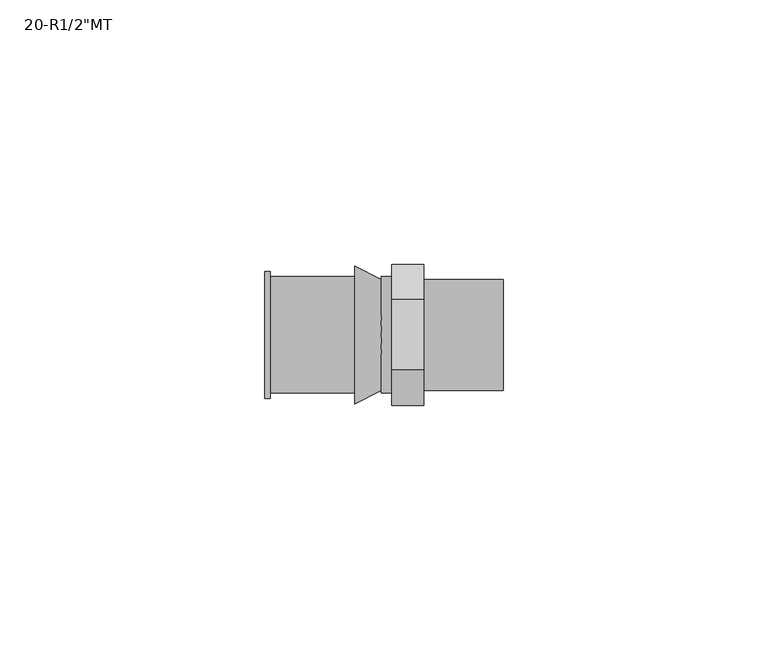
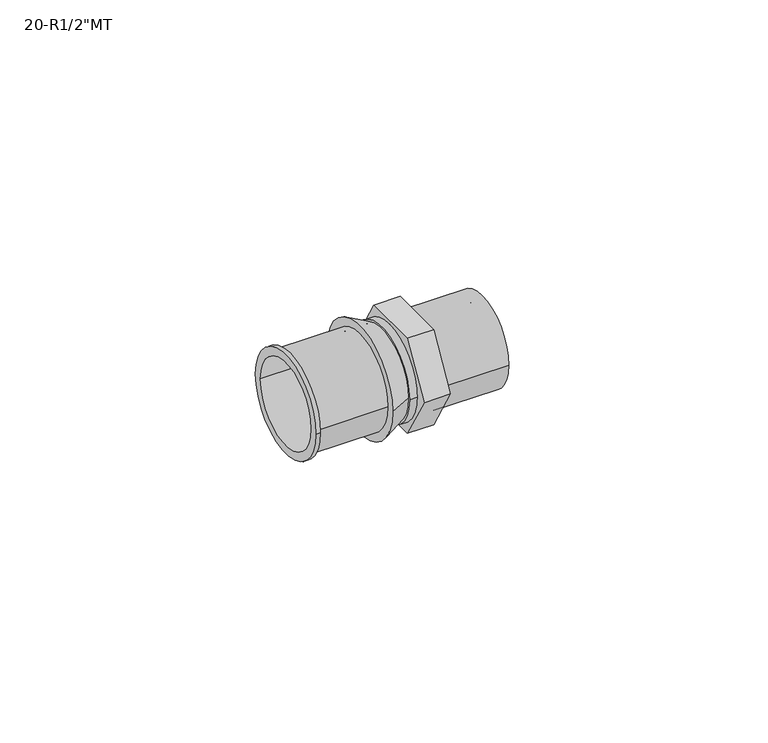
"""IFC4 building model written with IfcOpenShell, lengths in millimetres: pipe fitting geometry."""

from ifc_helpers import new_model, si_unit, point, frame, origin, origin_2d, place, context, project, spatial, polyline, circle_curve, trimmed, segment, composite_curve, outline, extrude, source, transform, mapped, element, save
from ifc_brep_helpers import plane_surface, cylinder_surface, revolved_surface, advanced_brep


def pipe_fitting_318aa478(model_context):
    return source(origin(), model_context, "Body", "SolidModel", [
        advanced_brep(
        [(-3.0, -13.2790562, 0.0), (-3.0, -6.6395281, 11.5), (-3.0, 6.6395281, 11.5), (-3.0, 13.2790562, 0.0), (-3.0, 6.6395281, -11.5), (-3.0, -6.6395281, -11.5), (3.0, -13.2790562, 0.0), (3.0, -6.6395281, -11.5), (3.0, 6.6395281, -11.5), (3.0, 13.2790562, 0.0), (3.0, 6.6395281, 11.5), (3.0, -6.6395281, 11.5), (3.0, -10.5, 0.0), (3.0, 10.5, 0.0), (3.0, -7.5, 0.0), (3.0, 7.5, 0.0), (18.0, -10.5, 0.0), (18.0, 10.5, 0.0), (18.0, -7.5, 0.0), (18.0, 7.5, 0.0)],
        [
            (0, 1),
            (1, 2),
            (2, 3),
            (3, 4),
            (4, 5),
            (5, 0),
            (6, 7),
            (7, 8),
            (8, 9),
            (9, 10),
            (10, 11),
            (11, 6),
            (12, 13, circle_curve(frame((3.0, 0.0, 0.0), z_axis=(-1.0, 0.0, 0.0), x_axis=(0.0, 1.0, 0.0)), 10.5)),
            (13, 12, circle_curve(frame((3.0, 0.0, 0.0), z_axis=(-1.0, 0.0, 0.0), x_axis=(0.0, 1.0, 0.0)), 10.5)),
            (14, 15, circle_curve(frame((3.0, 0.0, 0.0), z_axis=(1.0, 0.0, 0.0), x_axis=(0.0, 1.0, 0.0)), 7.5)),
            (15, 14, circle_curve(frame((3.0, 0.0, 0.0), z_axis=(1.0, 0.0, 0.0), x_axis=(0.0, 1.0, 0.0)), 7.5)),
            (0, 6),
            (11, 1),
            (10, 2),
            (9, 3),
            (8, 4),
            (7, 5),
            (16, 17, circle_curve(frame((18.0, 0.0, 0.0), z_axis=(1.0, 0.0, 0.0), x_axis=(0.0, 1.0, 0.0)), 10.5)),
            (17, 16, circle_curve(frame((18.0, 0.0, 0.0), z_axis=(1.0, 0.0, 0.0), x_axis=(0.0, 1.0, 0.0)), 10.5)),
            (18, 19, circle_curve(frame((18.0, 0.0, 0.0), z_axis=(-1.0, 0.0, 0.0), x_axis=(0.0, 1.0, 0.0)), 7.5)),
            (19, 18, circle_curve(frame((18.0, 0.0, 0.0), z_axis=(-1.0, 0.0, 0.0), x_axis=(0.0, 1.0, 0.0)), 7.5)),
            (17, 13),
            (12, 16),
            (19, 15),
            (14, 18),
        ],
        [
            plane_surface(frame((-3.0, 0.0, 0.0), z_axis=(-1.0, 0.0, 0.0), x_axis=(0.0, 0.0, 1.0))),
            plane_surface(frame((3.0, 0.0, 0.0), z_axis=(1.0, 0.0, 0.0), x_axis=(0.0, 0.0, 1.0))),
            plane_surface(frame((-3.0, -13.2790562, 0.0), z_axis=(0.0, -0.8660254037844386, 0.5000000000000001), x_axis=(1.0, 0.0, 0.0))),
            plane_surface(frame((-3.0, -6.6395281, 11.5), z_axis=(0.0, 0.0, 1.0), x_axis=(1.0, 0.0, 0.0))),
            plane_surface(frame((-3.0, 6.6395281, 11.5), z_axis=(0.0, 0.8660254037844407, 0.49999999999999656), x_axis=(1.0, 0.0, 0.0))),
            plane_surface(frame((-3.0, 13.2790562, 0.0), z_axis=(0.0, 0.8660254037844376, -0.500000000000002), x_axis=(1.0, 0.0, 0.0))),
            plane_surface(frame((-3.0, 6.6395281, -11.5), z_axis=(0.0, 0.0, -1.0), x_axis=(1.0, 0.0, 0.0))),
            plane_surface(frame((-3.0, -6.6395281, -11.5), z_axis=(0.0, -0.8660254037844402, -0.49999999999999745), x_axis=(1.0, 0.0, 0.0))),
            plane_surface(frame((18.0, 0.0, 0.0), z_axis=(1.0, 0.0, 0.0), x_axis=(0.0, 0.0, 1.0))),
            cylinder_surface(frame((3.0, 0.0, 0.0), z_axis=(-1.0, 0.0, 0.0), x_axis=(0.0, 1.0, 0.0)), 10.5),
            revolved_surface(polyline([(18.0, 7.5, 0.0), (3.0, 7.5, 0.0)]), (3.0, 0.0, 0.0), (1.0, 0.0, 0.0)),
        ],
        [
            (0, [[1, 2, 3, 4, 5, 6]]),
            (1, [[7, 8, 9, 10, 11, 12], [13, 14]]),
            (1, [[15, 16]]),
            (2, [[-1, 17, -12, 18]]),
            (3, [[-2, -18, -11, 19]]),
            (4, [[-3, -19, -10, 20]]),
            (5, [[-4, -20, -9, 21]]),
            (6, [[-5, -21, -8, 22]]),
            (7, [[-6, -22, -7, -17]]),
            (8, [[23, 24], [25, 26]]),
            (9, [[-24, 27, -13, 28]]),
            (9, [[-23, -28, -14, -27]]),
            (10, [[-26, 29, -15, 30]]),
            (10, [[-25, -30, -16, -29]]),
        ],
    ),
        advanced_brep(
        [(-27.0, -12.0, 0.0), (-27.0, 12.0, 0.0), (-27.0, -10.0, 0.0), (-27.0, 10.0, 0.0), (-10.0, -11.0, 0.0), (-10.0, 11.0, 0.0), (-10.0, -10.0, 0.0), (-10.0, 10.0, 0.0), (-26.0, 11.0, 0.0), (-26.0, -11.0, 0.0), (-26.0, -12.0, 0.0), (-26.0, 12.0, 0.0)],
        [
            (0, 1, circle_curve(frame((-27.0, 0.0, 0.0), z_axis=(-1.0, 0.0, 0.0), x_axis=(0.0, 1.0, 0.0)), 12.0)),
            (1, 0, circle_curve(frame((-27.0, 0.0, 0.0), z_axis=(-1.0, 0.0, 0.0), x_axis=(0.0, 1.0, 0.0)), 12.0)),
            (2, 3, circle_curve(frame((-27.0, 0.0, 0.0), z_axis=(1.0, 0.0, 0.0), x_axis=(0.0, 1.0, 0.0)), 10.0)),
            (3, 2, circle_curve(frame((-27.0, 0.0, 0.0), z_axis=(1.0, 0.0, 0.0), x_axis=(0.0, 1.0, 0.0)), 10.0)),
            (4, 5, circle_curve(frame((-10.0, 0.0, 0.0), z_axis=(1.0, 0.0, 0.0), x_axis=(0.0, 1.0, 0.0)), 11.0)),
            (5, 4, circle_curve(frame((-10.0, 0.0, 0.0), z_axis=(1.0, 0.0, 0.0), x_axis=(0.0, 1.0, 0.0)), 11.0)),
            (6, 7, circle_curve(frame((-10.0, 0.0, 0.0), z_axis=(-1.0, 0.0, 0.0), x_axis=(0.0, 1.0, 0.0)), 10.0)),
            (7, 6, circle_curve(frame((-10.0, 0.0, 0.0), z_axis=(-1.0, 0.0, 0.0), x_axis=(0.0, 1.0, 0.0)), 10.0)),
            (2, 6),
            (7, 3),
            (5, 8),
            (8, 9, circle_curve(frame((-26.0, 0.0, 0.0), z_axis=(1.0, 0.0, 0.0), x_axis=(0.0, 1.0, 0.0)), 11.0)),
            (9, 4),
            (9, 8, circle_curve(frame((-26.0, 0.0, 0.0), z_axis=(1.0, 0.0, 0.0), x_axis=(0.0, 1.0, 0.0)), 11.0)),
            (10, 11, circle_curve(frame((-26.0, 0.0, 0.0), z_axis=(1.0, 0.0, 0.0), x_axis=(0.0, 1.0, 0.0)), 12.0)),
            (11, 10, circle_curve(frame((-26.0, 0.0, 0.0), z_axis=(1.0, 0.0, 0.0), x_axis=(0.0, 1.0, 0.0)), 12.0)),
            (0, 10),
            (11, 1),
        ],
        [
            plane_surface(frame((-27.0, 0.0, 0.0), z_axis=(-1.0, 0.0, 0.0), x_axis=(0.0, 0.0, 1.0))),
            plane_surface(frame((-10.0, 0.0, 0.0), z_axis=(1.0, 0.0, 0.0), x_axis=(0.0, 0.0, 1.0))),
            revolved_surface(polyline([(-10.0, 10.0, 0.0), (-27.0, 10.0, 0.0)]), (-27.0, 0.0, 0.0), (1.0, 0.0, 0.0)),
            cylinder_surface(frame((-27.0, 0.0, 0.0), z_axis=(-1.0, 0.0, 0.0), x_axis=(0.0, 1.0, 0.0)), 11.0),
            plane_surface(frame((-26.0, 0.0, 0.0), z_axis=(1.0, 0.0, 0.0), x_axis=(0.0, 0.0, 1.0))),
            cylinder_surface(frame((-27.0, 0.0, 0.0), z_axis=(-1.0, 0.0, 0.0), x_axis=(0.0, 1.0, 0.0)), 12.0),
        ],
        [
            (0, [[1, 2], [3, 4]]),
            (1, [[5, 6], [7, 8]]),
            (2, [[-3, 9, -8, 10]]),
            (2, [[-4, -10, -7, -9]]),
            (3, [[-6, 11, 12, 13]]),
            (3, [[-5, -13, 14, -11]]),
            (4, [[15, 16], [-12, -14]]),
            (5, [[-1, 17, -16, 18]]),
            (5, [[-2, -18, -15, -17]]),
        ],
    ),
        advanced_brep(
        [(-5.0, -10.5, 0.0), (-5.0, 10.5, 0.0), (-5.0, 10.0, 0.0), (-5.0, -10.0, 0.0), (-10.0, -13.0, 0.0), (-10.0, 13.0, 0.0), (-10.0, -10.0, 0.0), (-10.0, 10.0, 0.0)],
        [
            (0, 1, circle_curve(frame((-5.0, 0.0, 0.0), z_axis=(1.0, 0.0, 0.0), x_axis=(0.0, -1.0, 0.0)), 10.5)),
            (1, 0, circle_curve(frame((-5.0, 0.0, 0.0), z_axis=(1.0, 0.0, 0.0), x_axis=(0.0, 1.0, 0.0)), 10.5)),
            (2, 3, circle_curve(frame((-5.0, 0.0, 0.0), z_axis=(-1.0, 0.0, 0.0), x_axis=(0.0, 1.0, 0.0)), 10.0)),
            (3, 2, circle_curve(frame((-5.0, 0.0, 0.0), z_axis=(-1.0, 0.0, 0.0), x_axis=(0.0, 1.0, 0.0)), 10.0)),
            (4, 5, circle_curve(frame((-10.0, 0.0, 0.0), z_axis=(-1.0, 0.0, 0.0), x_axis=(0.0, 1.0, 0.0)), 13.0)),
            (5, 4, circle_curve(frame((-10.0, 0.0, 0.0), z_axis=(-1.0, 0.0, 0.0), x_axis=(0.0, -1.0, 0.0)), 13.0)),
            (6, 7, circle_curve(frame((-10.0, 0.0, 0.0), z_axis=(1.0, 0.0, 0.0), x_axis=(0.0, 1.0, 0.0)), 10.0)),
            (7, 6, circle_curve(frame((-10.0, 0.0, 0.0), z_axis=(1.0, 0.0, 0.0), x_axis=(0.0, 1.0, 0.0)), 10.0)),
            (0, 4),
            (5, 1),
            (2, 7),
            (6, 3),
        ],
        [
            plane_surface(frame((-5.0, 0.0, 0.0), z_axis=(1.0, 0.0, 0.0), x_axis=(0.0, 0.0, -1.0))),
            plane_surface(frame((-10.0, 0.0, 0.0), z_axis=(-1.0, 0.0, 0.0), x_axis=(0.0, 0.0, -1.0))),
            revolved_surface(polyline([(-5.0, -10.5, 0.0), (-10.0, -13.0, 0.0)]), (16.0, 0.0, 0.0), (-1.0, 0.0, 0.0)),
            revolved_surface(polyline([(-5.0, 10.5, 0.0), (-10.0, 13.0, 0.0)]), (16.0, 0.0, 0.0), (-1.0, 0.0, 0.0)),
            revolved_surface(polyline([(-5.0, 10.0, 0.0), (-10.0, 10.0, 0.0)]), (-10.0, 0.0, 0.0), (1.0, 0.0, 0.0)),
        ],
        [
            (0, [[1, 2], [3, 4]]),
            (1, [[5, 6], [7, 8]]),
            (2, [[-1, 9, -6, 10]]),
            (3, [[-2, -10, -5, -9]]),
            (4, [[11, -7, 12, -3]]),
            (4, [[-11, -4, -12, -8]]),
        ],
    ),
        extrude(outline(composite_curve([segment(trimmed(circle_curve(origin_2d(), 11.0), [point((-11.0, 0.0))], [point((11.0, 0.0))], False, "CARTESIAN"), True, "CONTINUOUS"), segment(trimmed(circle_curve(origin_2d(), 11.0), [point((11.0, 0.0))], [point((-11.0, 0.0))], False, "CARTESIAN"), True, "CONTINUOUS")], self_intersect=False)), frame((-5.0, 0.0, 0.0), z_axis=(1.0, 0.0, 0.0), x_axis=(0.0, 1.0, 0.0)), (0.0, 0.0, 1.0), 2.0),
    ])


if __name__ == "__main__":
    model = new_model("IFC4")
    model_context = context("Model", 3, world=origin())
    ifc_project = project(units=[si_unit("LENGTHUNIT", "METRE", prefix="MILLI")], contexts=[model_context])
    site = spatial("IfcSite", under=ifc_project)
    building = spatial("IfcBuilding", under=site)
    placement = place(None, origin())
    pipe_fitting_shape = pipe_fitting_318aa478(model_context)
    element("IfcPipeFitting", 1, ObjectType="SuperPipe_AdapterMT : 20-R1/2\"MT", at=placement, inside=building, context=model_context, shape_type="MappedRepresentation", body=[
        mapped(pipe_fitting_shape, transform((0.0, 0.0, 0.0), x_axis=(1.0, 0.0, 0.0), y_axis=(0.0, 1.0, 0.0), z_axis=(0.0, 0.0, 1.0))),
    ])
    save(model, "model.ifc")
